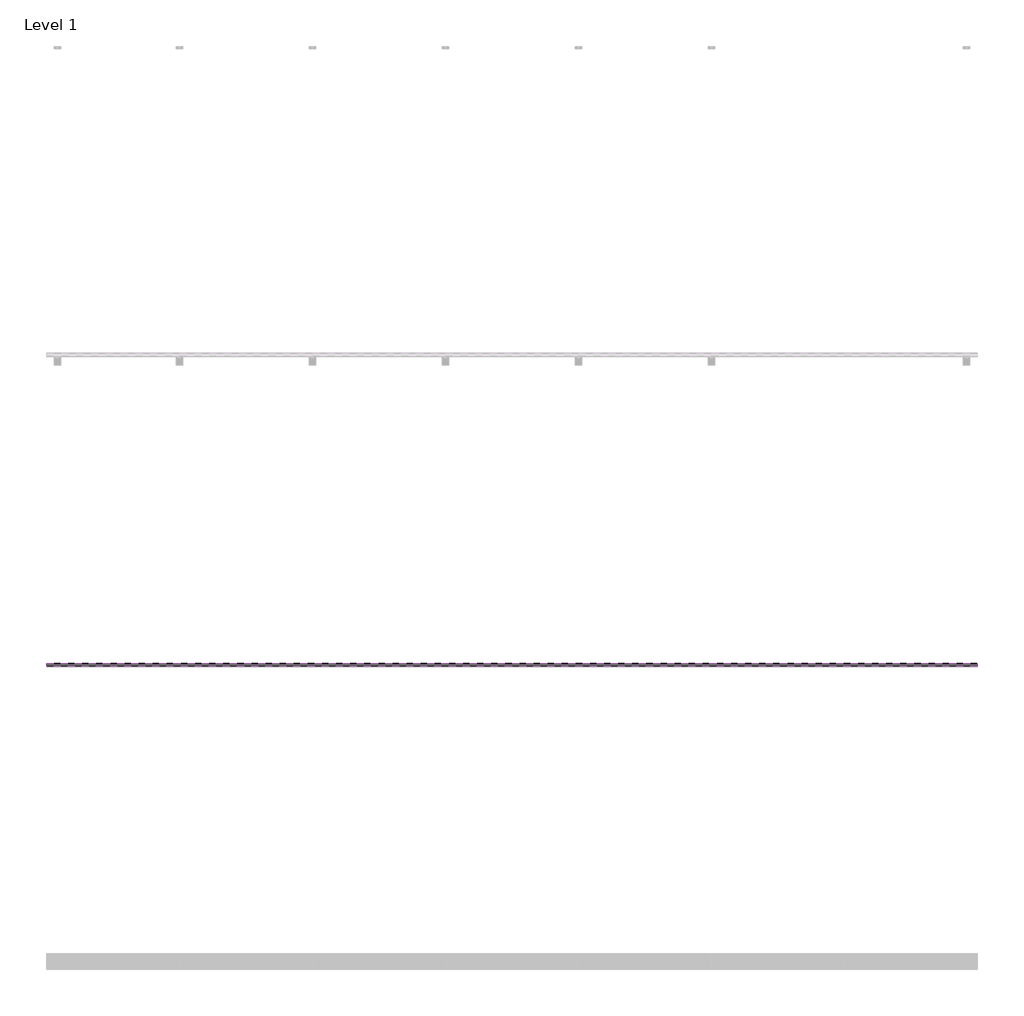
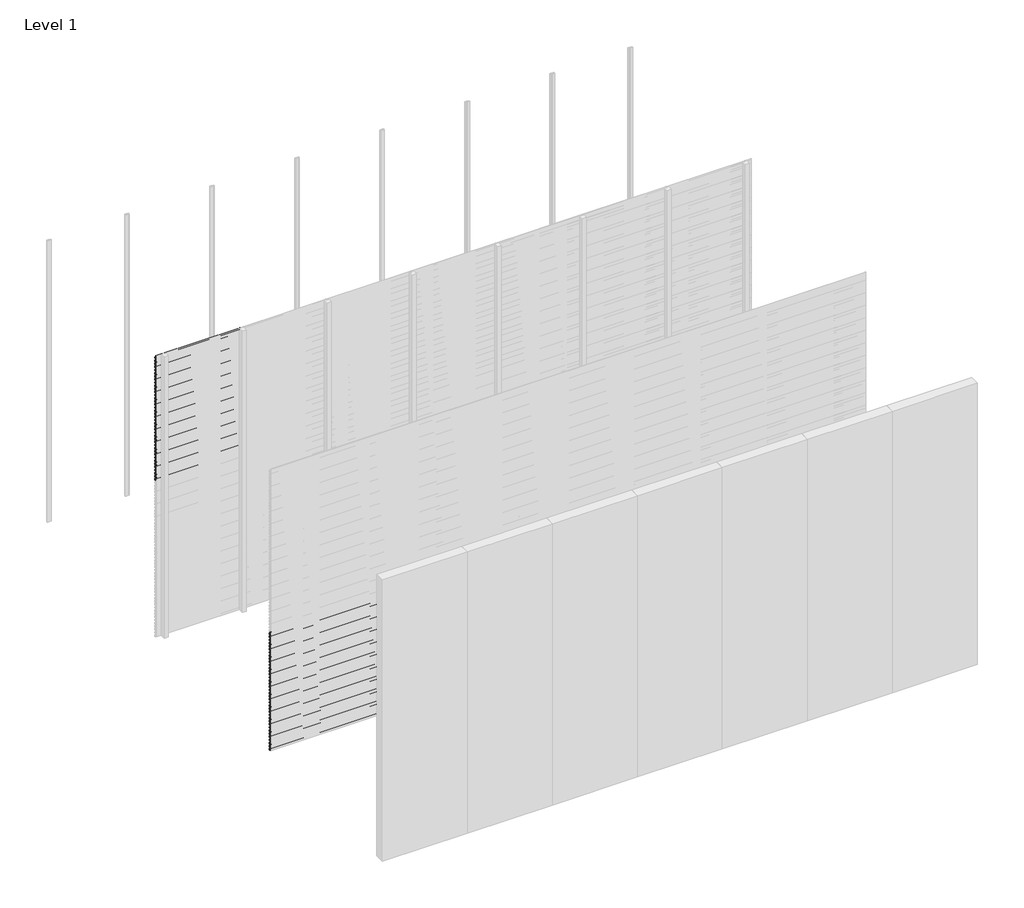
# One storey, part 42 of 96: 78 proxies.
"""IFC4 building model written with IfcOpenShell, lengths in millimetres."""

from ifc_helpers import new_model, si_unit, frame, origin, place, context, project, spatial, polyline, outline, extrude, element, save

model = new_model("IFC4")

# Units and contexts
model_context = context("Model", 3, world=origin())
ifc_project = project(units=[si_unit("LENGTHUNIT", "METRE", prefix="MILLI")], contexts=[model_context])

# Site, building, storey
site = spatial("IfcSite", under=ifc_project)
building = spatial("IfcBuilding", under=site)
storey = spatial("IfcBuildingStorey", under=building, Name="Level 1", Elevation=0.0)

# Proxies
placement = place(None, origin())
element("IfcBuildingElementProxy", 1, Name="Wall Sweeps", at=placement, inside=storey, context=model_context, shape_type="SweptSolid", body=[
    extrude(outline(polyline([(-29977.6, 2971.7655033), (-29977.6, 2957.4779188), (-29982.4114965, 2954.7), (-29982.4114965, 2955.9701706), (-29978.85, 2958.0264016), (-29978.85, 2971.0437382), (-29998.0, 2982.1000799), (-29998.0, 2997.0), (-29996.75, 2997.0), (-29996.75, 2982.8217609), (-29977.6, 2971.7655033)])), frame((0.0, 0.0, 0.0), z_axis=(1.0, 0.0, 0.0), x_axis=(0.0, 1.0, 0.0)), (0.0, 0.0, 1.0), 857.1428571),
])
element("IfcBuildingElementProxy", 2, Name="Wall Sweeps", at=placement, inside=storey, context=model_context, shape_type="SweptSolid", body=[
    extrude(outline(polyline([(-29977.6, 2938.4655033), (-29977.6, 2924.1779188), (-29982.4114965, 2921.4), (-29982.4114965, 2922.6701706), (-29978.85, 2924.7264016), (-29978.85, 2937.7437382), (-29998.0, 2948.8000799), (-29998.0, 2963.7), (-29996.75, 2963.7), (-29996.75, 2949.5217609), (-29977.6, 2938.4655033)])), frame((0.0, 0.0, 0.0), z_axis=(1.0, 0.0, 0.0), x_axis=(0.0, 1.0, 0.0)), (0.0, 0.0, 1.0), 857.1428571),
])
element("IfcBuildingElementProxy", 3, Name="Wall Sweeps", at=placement, inside=storey, context=model_context, shape_type="SweptSolid", body=[
    extrude(outline(polyline([(-29977.6, 2905.1655033), (-29977.6, 2890.8779188), (-29982.4114965, 2888.1), (-29982.4114965, 2889.3701706), (-29978.85, 2891.4264016), (-29978.85, 2904.4437382), (-29998.0, 2915.5000799), (-29998.0, 2930.4), (-29996.75, 2930.4), (-29996.75, 2916.2217609), (-29977.6, 2905.1655033)])), frame((0.0, 0.0, 0.0), z_axis=(1.0, 0.0, 0.0), x_axis=(0.0, 1.0, 0.0)), (0.0, 0.0, 1.0), 857.1428571),
])
element("IfcBuildingElementProxy", 4, Name="Wall Sweeps", at=placement, inside=storey, context=model_context, shape_type="SweptSolid", body=[
    extrude(outline(polyline([(-29977.6, 2871.8655033), (-29977.6, 2857.5779188), (-29982.4114965, 2854.8), (-29982.4114965, 2856.0701706), (-29978.85, 2858.1264016), (-29978.85, 2871.1437382), (-29998.0, 2882.2000799), (-29998.0, 2897.1), (-29996.75, 2897.1), (-29996.75, 2882.9217609), (-29977.6, 2871.8655033)])), frame((0.0, 0.0, 0.0), z_axis=(1.0, 0.0, 0.0), x_axis=(0.0, 1.0, 0.0)), (0.0, 0.0, 1.0), 857.1428571),
])
element("IfcBuildingElementProxy", 5, Name="Wall Sweeps", at=placement, inside=storey, context=model_context, shape_type="SweptSolid", body=[
    extrude(outline(polyline([(-29977.6, 2838.5655033), (-29977.6, 2824.2779188), (-29982.4114965, 2821.5), (-29982.4114965, 2822.7701706), (-29978.85, 2824.8264016), (-29978.85, 2837.8437382), (-29998.0, 2848.9000799), (-29998.0, 2863.8), (-29996.75, 2863.8), (-29996.75, 2849.6217609), (-29977.6, 2838.5655033)])), frame((0.0, 0.0, 0.0), z_axis=(1.0, 0.0, 0.0), x_axis=(0.0, 1.0, 0.0)), (0.0, 0.0, 1.0), 857.1428571),
])
element("IfcBuildingElementProxy", 6, Name="Wall Sweeps", at=placement, inside=storey, context=model_context, shape_type="SweptSolid", body=[
    extrude(outline(polyline([(-29977.6, 2805.2655033), (-29977.6, 2790.9779188), (-29982.4114965, 2788.2), (-29982.4114965, 2789.4701706), (-29978.85, 2791.5264016), (-29978.85, 2804.5437382), (-29998.0, 2815.6000799), (-29998.0, 2830.5), (-29996.75, 2830.5), (-29996.75, 2816.3217609), (-29977.6, 2805.2655033)])), frame((0.0, 0.0, 0.0), z_axis=(1.0, 0.0, 0.0), x_axis=(0.0, 1.0, 0.0)), (0.0, 0.0, 1.0), 857.1428571),
])
element("IfcBuildingElementProxy", 7, Name="Wall Sweeps", at=placement, inside=storey, context=model_context, shape_type="SweptSolid", body=[
    extrude(outline(polyline([(-29977.6, 2771.9655033), (-29977.6, 2757.6779188), (-29982.4114965, 2754.9), (-29982.4114965, 2756.1701706), (-29978.85, 2758.2264016), (-29978.85, 2771.2437382), (-29998.0, 2782.3000799), (-29998.0, 2797.2), (-29996.75, 2797.2), (-29996.75, 2783.0217609), (-29977.6, 2771.9655033)])), frame((0.0, 0.0, 0.0), z_axis=(1.0, 0.0, 0.0), x_axis=(0.0, 1.0, 0.0)), (0.0, 0.0, 1.0), 857.1428571),
])
element("IfcBuildingElementProxy", 8, Name="Wall Sweeps", at=placement, inside=storey, context=model_context, shape_type="SweptSolid", body=[
    extrude(outline(polyline([(-29977.6, 2738.6655033), (-29977.6, 2724.3779188), (-29982.4114965, 2721.6), (-29982.4114965, 2722.8701706), (-29978.85, 2724.9264016), (-29978.85, 2737.9437382), (-29998.0, 2749.0000799), (-29998.0, 2763.9), (-29996.75, 2763.9), (-29996.75, 2749.7217609), (-29977.6, 2738.6655033)])), frame((0.0, 0.0, 0.0), z_axis=(1.0, 0.0, 0.0), x_axis=(0.0, 1.0, 0.0)), (0.0, 0.0, 1.0), 857.1428571),
])
element("IfcBuildingElementProxy", 9, Name="Wall Sweeps", at=placement, inside=storey, context=model_context, shape_type="SweptSolid", body=[
    extrude(outline(polyline([(-29977.6, 2705.3655033), (-29977.6, 2691.0779188), (-29982.4114965, 2688.3), (-29982.4114965, 2689.5701706), (-29978.85, 2691.6264016), (-29978.85, 2704.6437382), (-29998.0, 2715.7000799), (-29998.0, 2730.6), (-29996.75, 2730.6), (-29996.75, 2716.4217609), (-29977.6, 2705.3655033)])), frame((0.0, 0.0, 0.0), z_axis=(1.0, 0.0, 0.0), x_axis=(0.0, 1.0, 0.0)), (0.0, 0.0, 1.0), 857.1428571),
])
element("IfcBuildingElementProxy", 10, Name="Wall Sweeps", at=placement, inside=storey, context=model_context, shape_type="SweptSolid", body=[
    extrude(outline(polyline([(-29977.6, 2672.0655033), (-29977.6, 2657.7779188), (-29982.4114965, 2655.0), (-29982.4114965, 2656.2701706), (-29978.85, 2658.3264016), (-29978.85, 2671.3437382), (-29998.0, 2682.4000799), (-29998.0, 2697.3), (-29996.75, 2697.3), (-29996.75, 2683.1217609), (-29977.6, 2672.0655033)])), frame((0.0, 0.0, 0.0), z_axis=(1.0, 0.0, 0.0), x_axis=(0.0, 1.0, 0.0)), (0.0, 0.0, 1.0), 857.1428571),
])
element("IfcBuildingElementProxy", 11, Name="Wall Sweeps", at=placement, inside=storey, context=model_context, shape_type="SweptSolid", body=[
    extrude(outline(polyline([(-29977.6, 2638.7655033), (-29977.6, 2624.4779188), (-29982.4114965, 2621.7), (-29982.4114965, 2622.9701706), (-29978.85, 2625.0264016), (-29978.85, 2638.0437382), (-29998.0, 2649.1000799), (-29998.0, 2664.0), (-29996.75, 2664.0), (-29996.75, 2649.8217609), (-29977.6, 2638.7655033)])), frame((0.0, 0.0, 0.0), z_axis=(1.0, 0.0, 0.0), x_axis=(0.0, 1.0, 0.0)), (0.0, 0.0, 1.0), 857.1428571),
])
element("IfcBuildingElementProxy", 12, Name="Wall Sweeps", at=placement, inside=storey, context=model_context, shape_type="SweptSolid", body=[
    extrude(outline(polyline([(-29977.6, 2605.4655033), (-29977.6, 2591.1779188), (-29982.4114965, 2588.4), (-29982.4114965, 2589.6701706), (-29978.85, 2591.7264016), (-29978.85, 2604.7437382), (-29998.0, 2615.8000799), (-29998.0, 2630.7), (-29996.75, 2630.7), (-29996.75, 2616.5217609), (-29977.6, 2605.4655033)])), frame((0.0, 0.0, 0.0), z_axis=(1.0, 0.0, 0.0), x_axis=(0.0, 1.0, 0.0)), (0.0, 0.0, 1.0), 857.1428571),
])
element("IfcBuildingElementProxy", 13, Name="Wall Sweeps", at=placement, inside=storey, context=model_context, shape_type="SweptSolid", body=[
    extrude(outline(polyline([(-29977.6, 2572.1655033), (-29977.6, 2557.8779188), (-29982.4114965, 2555.1), (-29982.4114965, 2556.3701706), (-29978.85, 2558.4264016), (-29978.85, 2571.4437382), (-29998.0, 2582.5000799), (-29998.0, 2597.4), (-29996.75, 2597.4), (-29996.75, 2583.2217609), (-29977.6, 2572.1655033)])), frame((0.0, 0.0, 0.0), z_axis=(1.0, 0.0, 0.0), x_axis=(0.0, 1.0, 0.0)), (0.0, 0.0, 1.0), 857.1428571),
])
element("IfcBuildingElementProxy", 14, Name="Wall Sweeps", at=placement, inside=storey, context=model_context, shape_type="SweptSolid", body=[
    extrude(outline(polyline([(-29977.6, 2538.8655033), (-29977.6, 2524.5779188), (-29982.4114965, 2521.8), (-29982.4114965, 2523.0701706), (-29978.85, 2525.1264016), (-29978.85, 2538.1437382), (-29998.0, 2549.2000799), (-29998.0, 2564.1), (-29996.75, 2564.1), (-29996.75, 2549.9217609), (-29977.6, 2538.8655033)])), frame((0.0, 0.0, 0.0), z_axis=(1.0, 0.0, 0.0), x_axis=(0.0, 1.0, 0.0)), (0.0, 0.0, 1.0), 857.1428571),
])
element("IfcBuildingElementProxy", 15, Name="Wall Sweeps", at=placement, inside=storey, context=model_context, shape_type="SweptSolid", body=[
    extrude(outline(polyline([(-29977.6, 2505.5655033), (-29977.6, 2491.2779188), (-29982.4114965, 2488.5), (-29982.4114965, 2489.7701706), (-29978.85, 2491.8264016), (-29978.85, 2504.8437382), (-29998.0, 2515.9000799), (-29998.0, 2530.8), (-29996.75, 2530.8), (-29996.75, 2516.6217609), (-29977.6, 2505.5655033)])), frame((0.0, 0.0, 0.0), z_axis=(1.0, 0.0, 0.0), x_axis=(0.0, 1.0, 0.0)), (0.0, 0.0, 1.0), 857.1428571),
])
element("IfcBuildingElementProxy", 16, Name="Wall Sweeps", at=placement, inside=storey, context=model_context, shape_type="SweptSolid", body=[
    extrude(outline(polyline([(-29977.6, 2472.2655033), (-29977.6, 2457.9779188), (-29982.4114965, 2455.2), (-29982.4114965, 2456.4701706), (-29978.85, 2458.5264016), (-29978.85, 2471.5437382), (-29998.0, 2482.6000799), (-29998.0, 2497.5), (-29996.75, 2497.5), (-29996.75, 2483.3217609), (-29977.6, 2472.2655033)])), frame((0.0, 0.0, 0.0), z_axis=(1.0, 0.0, 0.0), x_axis=(0.0, 1.0, 0.0)), (0.0, 0.0, 1.0), 857.1428571),
])
element("IfcBuildingElementProxy", 17, Name="Wall Sweeps", at=placement, inside=storey, context=model_context, shape_type="SweptSolid", body=[
    extrude(outline(polyline([(-29977.6, 2438.9655033), (-29977.6, 2424.6779188), (-29982.4114965, 2421.9), (-29982.4114965, 2423.1701706), (-29978.85, 2425.2264016), (-29978.85, 2438.2437382), (-29998.0, 2449.3000799), (-29998.0, 2464.2), (-29996.75, 2464.2), (-29996.75, 2450.0217609), (-29977.6, 2438.9655033)])), frame((0.0, 0.0, 0.0), z_axis=(1.0, 0.0, 0.0), x_axis=(0.0, 1.0, 0.0)), (0.0, 0.0, 1.0), 857.1428571),
])
element("IfcBuildingElementProxy", 18, Name="Wall Sweeps", at=placement, inside=storey, context=model_context, shape_type="SweptSolid", body=[
    extrude(outline(polyline([(-29977.6, 2405.6655033), (-29977.6, 2391.3779188), (-29982.4114965, 2388.6), (-29982.4114965, 2389.8701706), (-29978.85, 2391.9264016), (-29978.85, 2404.9437382), (-29998.0, 2416.0000799), (-29998.0, 2430.9), (-29996.75, 2430.9), (-29996.75, 2416.7217609), (-29977.6, 2405.6655033)])), frame((0.0, 0.0, 0.0), z_axis=(1.0, 0.0, 0.0), x_axis=(0.0, 1.0, 0.0)), (0.0, 0.0, 1.0), 857.1428571),
])
element("IfcBuildingElementProxy", 19, Name="Wall Sweeps", at=placement, inside=storey, context=model_context, shape_type="SweptSolid", body=[
    extrude(outline(polyline([(-29977.6, 2372.3655033), (-29977.6, 2358.0779188), (-29982.4114965, 2355.3), (-29982.4114965, 2356.5701706), (-29978.85, 2358.6264016), (-29978.85, 2371.6437382), (-29998.0, 2382.7000799), (-29998.0, 2397.6), (-29996.75, 2397.6), (-29996.75, 2383.4217609), (-29977.6, 2372.3655033)])), frame((0.0, 0.0, 0.0), z_axis=(1.0, 0.0, 0.0), x_axis=(0.0, 1.0, 0.0)), (0.0, 0.0, 1.0), 857.1428571),
])
element("IfcBuildingElementProxy", 20, Name="Wall Sweeps", at=placement, inside=storey, context=model_context, shape_type="SweptSolid", body=[
    extrude(outline(polyline([(-29977.6, 2339.0655033), (-29977.6, 2324.7779188), (-29982.4114965, 2322.0), (-29982.4114965, 2323.2701706), (-29978.85, 2325.3264016), (-29978.85, 2338.3437382), (-29998.0, 2349.4000799), (-29998.0, 2364.3), (-29996.75, 2364.3), (-29996.75, 2350.1217609), (-29977.6, 2339.0655033)])), frame((0.0, 0.0, 0.0), z_axis=(1.0, 0.0, 0.0), x_axis=(0.0, 1.0, 0.0)), (0.0, 0.0, 1.0), 857.1428571),
])
element("IfcBuildingElementProxy", 21, Name="Wall Sweeps", at=placement, inside=storey, context=model_context, shape_type="SweptSolid", body=[
    extrude(outline(polyline([(-29977.6, 2305.7655033), (-29977.6, 2291.4779188), (-29982.4114965, 2288.7), (-29982.4114965, 2289.9701706), (-29978.85, 2292.0264016), (-29978.85, 2305.0437382), (-29998.0, 2316.1000799), (-29998.0, 2331.0), (-29996.75, 2331.0), (-29996.75, 2316.8217609), (-29977.6, 2305.7655033)])), frame((0.0, 0.0, 0.0), z_axis=(1.0, 0.0, 0.0), x_axis=(0.0, 1.0, 0.0)), (0.0, 0.0, 1.0), 857.1428571),
])
element("IfcBuildingElementProxy", 22, Name="Wall Sweeps", at=placement, inside=storey, context=model_context, shape_type="SweptSolid", body=[
    extrude(outline(polyline([(-29977.6, 2272.4655033), (-29977.6, 2258.1779188), (-29982.4114965, 2255.4), (-29982.4114965, 2256.6701706), (-29978.85, 2258.7264016), (-29978.85, 2271.7437382), (-29998.0, 2282.8000799), (-29998.0, 2297.7), (-29996.75, 2297.7), (-29996.75, 2283.5217609), (-29977.6, 2272.4655033)])), frame((0.0, 0.0, 0.0), z_axis=(1.0, 0.0, 0.0), x_axis=(0.0, 1.0, 0.0)), (0.0, 0.0, 1.0), 857.1428571),
])
element("IfcBuildingElementProxy", 23, Name="Wall Sweeps", at=placement, inside=storey, context=model_context, shape_type="SweptSolid", body=[
    extrude(outline(polyline([(-29977.6, 2239.1655033), (-29977.6, 2224.8779188), (-29982.4114965, 2222.1), (-29982.4114965, 2223.3701706), (-29978.85, 2225.4264016), (-29978.85, 2238.4437382), (-29998.0, 2249.5000799), (-29998.0, 2264.4), (-29996.75, 2264.4), (-29996.75, 2250.2217609), (-29977.6, 2239.1655033)])), frame((0.0, 0.0, 0.0), z_axis=(1.0, 0.0, 0.0), x_axis=(0.0, 1.0, 0.0)), (0.0, 0.0, 1.0), 857.1428571),
])
element("IfcBuildingElementProxy", 24, Name="Wall Sweeps", at=placement, inside=storey, context=model_context, shape_type="SweptSolid", body=[
    extrude(outline(polyline([(-29977.6, 2205.8655033), (-29977.6, 2191.5779188), (-29982.4114965, 2188.8), (-29982.4114965, 2190.0701706), (-29978.85, 2192.1264016), (-29978.85, 2205.1437382), (-29998.0, 2216.2000799), (-29998.0, 2231.1), (-29996.75, 2231.1), (-29996.75, 2216.9217609), (-29977.6, 2205.8655033)])), frame((0.0, 0.0, 0.0), z_axis=(1.0, 0.0, 0.0), x_axis=(0.0, 1.0, 0.0)), (0.0, 0.0, 1.0), 857.1428571),
])
element("IfcBuildingElementProxy", 25, Name="Wall Sweeps", at=placement, inside=storey, context=model_context, shape_type="SweptSolid", body=[
    extrude(outline(polyline([(-29977.6, 2172.5655033), (-29977.6, 2158.2779188), (-29982.4114965, 2155.5), (-29982.4114965, 2156.7701706), (-29978.85, 2158.8264016), (-29978.85, 2171.8437382), (-29998.0, 2182.9000799), (-29998.0, 2197.8), (-29996.75, 2197.8), (-29996.75, 2183.6217609), (-29977.6, 2172.5655033)])), frame((0.0, 0.0, 0.0), z_axis=(1.0, 0.0, 0.0), x_axis=(0.0, 1.0, 0.0)), (0.0, 0.0, 1.0), 857.1428571),
])
element("IfcBuildingElementProxy", 26, Name="Wall Sweeps", at=placement, inside=storey, context=model_context, shape_type="SweptSolid", body=[
    extrude(outline(polyline([(-29977.6, 2139.2655033), (-29977.6, 2124.9779188), (-29982.4114965, 2122.2), (-29982.4114965, 2123.4701706), (-29978.85, 2125.5264016), (-29978.85, 2138.5437382), (-29998.0, 2149.6000799), (-29998.0, 2164.5), (-29996.75, 2164.5), (-29996.75, 2150.3217609), (-29977.6, 2139.2655033)])), frame((0.0, 0.0, 0.0), z_axis=(1.0, 0.0, 0.0), x_axis=(0.0, 1.0, 0.0)), (0.0, 0.0, 1.0), 857.1428571),
])
element("IfcBuildingElementProxy", 27, Name="Wall Sweeps", at=placement, inside=storey, context=model_context, shape_type="SweptSolid", body=[
    extrude(outline(polyline([(-29977.6, 2105.9655033), (-29977.6, 2091.6779188), (-29982.4114965, 2088.9), (-29982.4114965, 2090.1701706), (-29978.85, 2092.2264016), (-29978.85, 2105.2437382), (-29998.0, 2116.3000799), (-29998.0, 2131.2), (-29996.75, 2131.2), (-29996.75, 2117.0217609), (-29977.6, 2105.9655033)])), frame((0.0, 0.0, 0.0), z_axis=(1.0, 0.0, 0.0), x_axis=(0.0, 1.0, 0.0)), (0.0, 0.0, 1.0), 857.1428571),
])
element("IfcBuildingElementProxy", 28, Name="Wall Sweeps", at=placement, inside=storey, context=model_context, shape_type="SweptSolid", body=[
    extrude(outline(polyline([(-29977.6, 2072.6655033), (-29977.6, 2058.3779188), (-29982.4114965, 2055.6), (-29982.4114965, 2056.8701706), (-29978.85, 2058.9264016), (-29978.85, 2071.9437382), (-29998.0, 2083.0000799), (-29998.0, 2097.9), (-29996.75, 2097.9), (-29996.75, 2083.7217609), (-29977.6, 2072.6655033)])), frame((0.0, 0.0, 0.0), z_axis=(1.0, 0.0, 0.0), x_axis=(0.0, 1.0, 0.0)), (0.0, 0.0, 1.0), 857.1428571),
])
element("IfcBuildingElementProxy", 29, Name="Wall Sweeps", at=placement, inside=storey, context=model_context, shape_type="SweptSolid", body=[
    extrude(outline(polyline([(-29977.6, 2039.3655033), (-29977.6, 2025.0779188), (-29982.4114965, 2022.3), (-29982.4114965, 2023.5701706), (-29978.85, 2025.6264016), (-29978.85, 2038.6437382), (-29998.0, 2049.7000799), (-29998.0, 2064.6), (-29996.75, 2064.6), (-29996.75, 2050.4217609), (-29977.6, 2039.3655033)])), frame((0.0, 0.0, 0.0), z_axis=(1.0, 0.0, 0.0), x_axis=(0.0, 1.0, 0.0)), (0.0, 0.0, 1.0), 857.1428571),
])
element("IfcBuildingElementProxy", 30, Name="Wall Sweeps", at=placement, inside=storey, context=model_context, shape_type="SweptSolid", body=[
    extrude(outline(polyline([(-29977.6, 2006.0655033), (-29977.6, 1991.7779188), (-29982.4114965, 1989.0), (-29982.4114965, 1990.2701706), (-29978.85, 1992.3264016), (-29978.85, 2005.3437382), (-29998.0, 2016.4000799), (-29998.0, 2031.3), (-29996.75, 2031.3), (-29996.75, 2017.1217609), (-29977.6, 2006.0655033)])), frame((0.0, 0.0, 0.0), z_axis=(1.0, 0.0, 0.0), x_axis=(0.0, 1.0, 0.0)), (0.0, 0.0, 1.0), 857.1428571),
])
element("IfcBuildingElementProxy", 31, Name="Wall Sweeps", at=placement, inside=storey, context=model_context, shape_type="SweptSolid", body=[
    extrude(outline(polyline([(-29977.6, 1972.7655033), (-29977.6, 1958.4779188), (-29982.4114965, 1955.7), (-29982.4114965, 1956.9701706), (-29978.85, 1959.0264016), (-29978.85, 1972.0437382), (-29998.0, 1983.1000799), (-29998.0, 1998.0), (-29996.75, 1998.0), (-29996.75, 1983.8217609), (-29977.6, 1972.7655033)])), frame((0.0, 0.0, 0.0), z_axis=(1.0, 0.0, 0.0), x_axis=(0.0, 1.0, 0.0)), (0.0, 0.0, 1.0), 857.1428571),
])
element("IfcBuildingElementProxy", 32, Name="Wall Sweeps", at=placement, inside=storey, context=model_context, shape_type="SweptSolid", body=[
    extrude(outline(polyline([(-29977.6, 1939.4655033), (-29977.6, 1925.1779188), (-29982.4114965, 1922.4), (-29982.4114965, 1923.6701706), (-29978.85, 1925.7264016), (-29978.85, 1938.7437382), (-29998.0, 1949.8000799), (-29998.0, 1964.7), (-29996.75, 1964.7), (-29996.75, 1950.5217609), (-29977.6, 1939.4655033)])), frame((0.0, 0.0, 0.0), z_axis=(1.0, 0.0, 0.0), x_axis=(0.0, 1.0, 0.0)), (0.0, 0.0, 1.0), 857.1428571),
])
element("IfcBuildingElementProxy", 33, Name="Wall Sweeps", at=placement, inside=storey, context=model_context, shape_type="SweptSolid", body=[
    extrude(outline(polyline([(-29977.6, 1906.1655033), (-29977.6, 1891.8779188), (-29982.4114965, 1889.1), (-29982.4114965, 1890.3701706), (-29978.85, 1892.4264016), (-29978.85, 1905.4437382), (-29998.0, 1916.5000799), (-29998.0, 1931.4), (-29996.75, 1931.4), (-29996.75, 1917.2217609), (-29977.6, 1906.1655033)])), frame((0.0, 0.0, 0.0), z_axis=(1.0, 0.0, 0.0), x_axis=(0.0, 1.0, 0.0)), (0.0, 0.0, 1.0), 857.1428571),
])
element("IfcBuildingElementProxy", 34, Name="Wall Sweeps", at=placement, inside=storey, context=model_context, shape_type="SweptSolid", body=[
    extrude(outline(polyline([(-29977.6, 1872.8655033), (-29977.6, 1858.5779188), (-29982.4114965, 1855.8), (-29982.4114965, 1857.0701706), (-29978.85, 1859.1264016), (-29978.85, 1872.1437382), (-29998.0, 1883.2000799), (-29998.0, 1898.1), (-29996.75, 1898.1), (-29996.75, 1883.9217609), (-29977.6, 1872.8655033)])), frame((0.0, 0.0, 0.0), z_axis=(1.0, 0.0, 0.0), x_axis=(0.0, 1.0, 0.0)), (0.0, 0.0, 1.0), 857.1428571),
])
element("IfcBuildingElementProxy", 35, Name="Wall Sweeps", at=placement, inside=storey, context=model_context, shape_type="SweptSolid", body=[
    extrude(outline(polyline([(-29977.6, 1839.5655033), (-29977.6, 1825.2779188), (-29982.4114965, 1822.5), (-29982.4114965, 1823.7701706), (-29978.85, 1825.8264016), (-29978.85, 1838.8437382), (-29998.0, 1849.9000799), (-29998.0, 1864.8), (-29996.75, 1864.8), (-29996.75, 1850.6217609), (-29977.6, 1839.5655033)])), frame((0.0, 0.0, 0.0), z_axis=(1.0, 0.0, 0.0), x_axis=(0.0, 1.0, 0.0)), (0.0, 0.0, 1.0), 857.1428571),
])
element("IfcBuildingElementProxy", 36, Name="Wall Sweeps", at=placement, inside=storey, context=model_context, shape_type="SweptSolid", body=[
    extrude(outline(polyline([(-29977.6, 1806.2655033), (-29977.6, 1791.9779188), (-29982.4114965, 1789.2), (-29982.4114965, 1790.4701706), (-29978.85, 1792.5264016), (-29978.85, 1805.5437382), (-29998.0, 1816.6000799), (-29998.0, 1831.5), (-29996.75, 1831.5), (-29996.75, 1817.3217609), (-29977.6, 1806.2655033)])), frame((0.0, 0.0, 0.0), z_axis=(1.0, 0.0, 0.0), x_axis=(0.0, 1.0, 0.0)), (0.0, 0.0, 1.0), 857.1428571),
])
element("IfcBuildingElementProxy", 37, Name="Wall Sweeps", at=placement, inside=storey, context=model_context, shape_type="SweptSolid", body=[
    extrude(outline(polyline([(-29977.6, 1772.9655033), (-29977.6, 1758.6779188), (-29982.4114965, 1755.9), (-29982.4114965, 1757.1701706), (-29978.85, 1759.2264016), (-29978.85, 1772.2437382), (-29998.0, 1783.3000799), (-29998.0, 1798.2), (-29996.75, 1798.2), (-29996.75, 1784.0217609), (-29977.6, 1772.9655033)])), frame((0.0, 0.0, 0.0), z_axis=(1.0, 0.0, 0.0), x_axis=(0.0, 1.0, 0.0)), (0.0, 0.0, 1.0), 857.1428571),
])
element("IfcBuildingElementProxy", 38, Name="Wall Sweeps", at=placement, inside=storey, context=model_context, shape_type="SweptSolid", body=[
    extrude(outline(polyline([(-29977.6, 1739.6655033), (-29977.6, 1725.3779188), (-29982.4114965, 1722.6), (-29982.4114965, 1723.8701706), (-29978.85, 1725.9264016), (-29978.85, 1738.9437382), (-29998.0, 1750.0000799), (-29998.0, 1764.9), (-29996.75, 1764.9), (-29996.75, 1750.7217609), (-29977.6, 1739.6655033)])), frame((0.0, 0.0, 0.0), z_axis=(1.0, 0.0, 0.0), x_axis=(0.0, 1.0, 0.0)), (0.0, 0.0, 1.0), 857.1428571),
])
element("IfcBuildingElementProxy", 39, Name="Wall Sweeps", at=placement, inside=storey, context=model_context, shape_type="SweptSolid", body=[
    extrude(outline(polyline([(-29977.6, 1706.3655033), (-29977.6, 1692.0779188), (-29982.4114965, 1689.3), (-29982.4114965, 1690.5701706), (-29978.85, 1692.6264016), (-29978.85, 1705.6437382), (-29998.0, 1716.7000799), (-29998.0, 1731.6), (-29996.75, 1731.6), (-29996.75, 1717.4217609), (-29977.6, 1706.3655033)])), frame((0.0, 0.0, 0.0), z_axis=(1.0, 0.0, 0.0), x_axis=(0.0, 1.0, 0.0)), (0.0, 0.0, 1.0), 857.1428571),
])
element("IfcBuildingElementProxy", 40, Name="Wall Sweeps", at=placement, inside=storey, context=model_context, shape_type="SweptSolid", body=[
    extrude(outline(polyline([(-29977.6, 1673.0655033), (-29977.6, 1658.7779188), (-29982.4114965, 1656.0), (-29982.4114965, 1657.2701706), (-29978.85, 1659.3264016), (-29978.85, 1672.3437382), (-29998.0, 1683.4000799), (-29998.0, 1698.3), (-29996.75, 1698.3), (-29996.75, 1684.1217609), (-29977.6, 1673.0655033)])), frame((0.0, 0.0, 0.0), z_axis=(1.0, 0.0, 0.0), x_axis=(0.0, 1.0, 0.0)), (0.0, 0.0, 1.0), 857.1428571),
])
element("IfcBuildingElementProxy", 41, Name="Wall Sweeps", at=placement, inside=storey, context=model_context, shape_type="SweptSolid", body=[
    extrude(outline(polyline([(-31977.6, 1240.1655033), (-31977.6, 1225.8779188), (-31982.4114965, 1223.1), (-31982.4114965, 1224.3701706), (-31978.85, 1226.4264016), (-31978.85, 1239.4437382), (-31998.0, 1250.5000799), (-31998.0, 1265.4), (-31996.75, 1265.4), (-31996.75, 1251.2217609), (-31977.6, 1240.1655033)])), frame((0.0, 0.0, 0.0), z_axis=(1.0, 0.0, 0.0), x_axis=(0.0, 1.0, 0.0)), (0.0, 0.0, 1.0), 6000.0),
])
element("IfcBuildingElementProxy", 42, Name="Wall Sweeps", at=placement, inside=storey, context=model_context, shape_type="SweptSolid", body=[
    extrude(outline(polyline([(-31977.6, 1206.8655033), (-31977.6, 1192.5779188), (-31982.4114965, 1189.8), (-31982.4114965, 1191.0701706), (-31978.85, 1193.1264016), (-31978.85, 1206.1437382), (-31998.0, 1217.2000799), (-31998.0, 1232.1), (-31996.75, 1232.1), (-31996.75, 1217.9217609), (-31977.6, 1206.8655033)])), frame((0.0, 0.0, 0.0), z_axis=(1.0, 0.0, 0.0), x_axis=(0.0, 1.0, 0.0)), (0.0, 0.0, 1.0), 6000.0),
])
element("IfcBuildingElementProxy", 43, Name="Wall Sweeps", at=placement, inside=storey, context=model_context, shape_type="SweptSolid", body=[
    extrude(outline(polyline([(-31977.6, 1173.5655033), (-31977.6, 1159.2779188), (-31982.4114965, 1156.5), (-31982.4114965, 1157.7701706), (-31978.85, 1159.8264016), (-31978.85, 1172.8437382), (-31998.0, 1183.9000799), (-31998.0, 1198.8), (-31996.75, 1198.8), (-31996.75, 1184.6217609), (-31977.6, 1173.5655033)])), frame((0.0, 0.0, 0.0), z_axis=(1.0, 0.0, 0.0), x_axis=(0.0, 1.0, 0.0)), (0.0, 0.0, 1.0), 6000.0),
])
element("IfcBuildingElementProxy", 44, Name="Wall Sweeps", at=placement, inside=storey, context=model_context, shape_type="SweptSolid", body=[
    extrude(outline(polyline([(-31977.6, 1140.2655033), (-31977.6, 1125.9779188), (-31982.4114965, 1123.2), (-31982.4114965, 1124.4701706), (-31978.85, 1126.5264016), (-31978.85, 1139.5437382), (-31998.0, 1150.6000799), (-31998.0, 1165.5), (-31996.75, 1165.5), (-31996.75, 1151.3217609), (-31977.6, 1140.2655033)])), frame((0.0, 0.0, 0.0), z_axis=(1.0, 0.0, 0.0), x_axis=(0.0, 1.0, 0.0)), (0.0, 0.0, 1.0), 6000.0),
])
element("IfcBuildingElementProxy", 45, Name="Wall Sweeps", at=placement, inside=storey, context=model_context, shape_type="SweptSolid", body=[
    extrude(outline(polyline([(-31977.6, 1106.9655033), (-31977.6, 1092.6779188), (-31982.4114965, 1089.9), (-31982.4114965, 1091.1701706), (-31978.85, 1093.2264016), (-31978.85, 1106.2437382), (-31998.0, 1117.3000799), (-31998.0, 1132.2), (-31996.75, 1132.2), (-31996.75, 1118.0217609), (-31977.6, 1106.9655033)])), frame((0.0, 0.0, 0.0), z_axis=(1.0, 0.0, 0.0), x_axis=(0.0, 1.0, 0.0)), (0.0, 0.0, 1.0), 6000.0),
])
element("IfcBuildingElementProxy", 46, Name="Wall Sweeps", at=placement, inside=storey, context=model_context, shape_type="SweptSolid", body=[
    extrude(outline(polyline([(-31977.6, 1073.6655033), (-31977.6, 1059.3779188), (-31982.4114965, 1056.6), (-31982.4114965, 1057.8701706), (-31978.85, 1059.9264016), (-31978.85, 1072.9437382), (-31998.0, 1084.0000799), (-31998.0, 1098.9), (-31996.75, 1098.9), (-31996.75, 1084.7217609), (-31977.6, 1073.6655033)])), frame((0.0, 0.0, 0.0), z_axis=(1.0, 0.0, 0.0), x_axis=(0.0, 1.0, 0.0)), (0.0, 0.0, 1.0), 6000.0),
])
element("IfcBuildingElementProxy", 47, Name="Wall Sweeps", at=placement, inside=storey, context=model_context, shape_type="SweptSolid", body=[
    extrude(outline(polyline([(-31977.6, 1040.3655033), (-31977.6, 1026.0779188), (-31982.4114965, 1023.3), (-31982.4114965, 1024.5701706), (-31978.85, 1026.6264016), (-31978.85, 1039.6437382), (-31998.0, 1050.7000799), (-31998.0, 1065.6), (-31996.75, 1065.6), (-31996.75, 1051.4217609), (-31977.6, 1040.3655033)])), frame((0.0, 0.0, 0.0), z_axis=(1.0, 0.0, 0.0), x_axis=(0.0, 1.0, 0.0)), (0.0, 0.0, 1.0), 6000.0),
])
element("IfcBuildingElementProxy", 48, Name="Wall Sweeps", at=placement, inside=storey, context=model_context, shape_type="SweptSolid", body=[
    extrude(outline(polyline([(-31977.6, 1007.0655033), (-31977.6, 992.7779188), (-31982.4114965, 990.0), (-31982.4114965, 991.2701706), (-31978.85, 993.3264016), (-31978.85, 1006.3437382), (-31998.0, 1017.4000799), (-31998.0, 1032.3), (-31996.75, 1032.3), (-31996.75, 1018.1217609), (-31977.6, 1007.0655033)])), frame((0.0, 0.0, 0.0), z_axis=(1.0, 0.0, 0.0), x_axis=(0.0, 1.0, 0.0)), (0.0, 0.0, 1.0), 6000.0),
])
element("IfcBuildingElementProxy", 49, Name="Wall Sweeps", at=placement, inside=storey, context=model_context, shape_type="SweptSolid", body=[
    extrude(outline(polyline([(-31977.6, 973.7655033), (-31977.6, 959.4779188), (-31982.4114965, 956.7), (-31982.4114965, 957.9701706), (-31978.85, 960.0264016), (-31978.85, 973.0437382), (-31998.0, 984.1000799), (-31998.0, 999.0), (-31996.75, 999.0), (-31996.75, 984.8217609), (-31977.6, 973.7655033)])), frame((0.0, 0.0, 0.0), z_axis=(1.0, 0.0, 0.0), x_axis=(0.0, 1.0, 0.0)), (0.0, 0.0, 1.0), 6000.0),
])
element("IfcBuildingElementProxy", 50, Name="Wall Sweeps", at=placement, inside=storey, context=model_context, shape_type="SweptSolid", body=[
    extrude(outline(polyline([(-31977.6, 940.4655033), (-31977.6, 926.1779188), (-31982.4114965, 923.4), (-31982.4114965, 924.6701706), (-31978.85, 926.7264016), (-31978.85, 939.7437382), (-31998.0, 950.8000799), (-31998.0, 965.7), (-31996.75, 965.7), (-31996.75, 951.5217609), (-31977.6, 940.4655033)])), frame((0.0, 0.0, 0.0), z_axis=(1.0, 0.0, 0.0), x_axis=(0.0, 1.0, 0.0)), (0.0, 0.0, 1.0), 6000.0),
])
element("IfcBuildingElementProxy", 51, Name="Wall Sweeps", at=placement, inside=storey, context=model_context, shape_type="SweptSolid", body=[
    extrude(outline(polyline([(-31977.6, 907.1655033), (-31977.6, 892.8779188), (-31982.4114965, 890.1), (-31982.4114965, 891.3701706), (-31978.85, 893.4264016), (-31978.85, 906.4437382), (-31998.0, 917.5000799), (-31998.0, 932.4), (-31996.75, 932.4), (-31996.75, 918.2217609), (-31977.6, 907.1655033)])), frame((0.0, 0.0, 0.0), z_axis=(1.0, 0.0, 0.0), x_axis=(0.0, 1.0, 0.0)), (0.0, 0.0, 1.0), 6000.0),
])
element("IfcBuildingElementProxy", 52, Name="Wall Sweeps", at=placement, inside=storey, context=model_context, shape_type="SweptSolid", body=[
    extrude(outline(polyline([(-31977.6, 873.8655033), (-31977.6, 859.5779188), (-31982.4114965, 856.8), (-31982.4114965, 858.0701706), (-31978.85, 860.1264016), (-31978.85, 873.1437382), (-31998.0, 884.2000799), (-31998.0, 899.1), (-31996.75, 899.1), (-31996.75, 884.9217609), (-31977.6, 873.8655033)])), frame((0.0, 0.0, 0.0), z_axis=(1.0, 0.0, 0.0), x_axis=(0.0, 1.0, 0.0)), (0.0, 0.0, 1.0), 6000.0),
])
element("IfcBuildingElementProxy", 53, Name="Wall Sweeps", at=placement, inside=storey, context=model_context, shape_type="SweptSolid", body=[
    extrude(outline(polyline([(-31977.6, 840.5655033), (-31977.6, 826.2779188), (-31982.4114965, 823.5), (-31982.4114965, 824.7701706), (-31978.85, 826.8264016), (-31978.85, 839.8437382), (-31998.0, 850.9000799), (-31998.0, 865.8), (-31996.75, 865.8), (-31996.75, 851.6217609), (-31977.6, 840.5655033)])), frame((0.0, 0.0, 0.0), z_axis=(1.0, 0.0, 0.0), x_axis=(0.0, 1.0, 0.0)), (0.0, 0.0, 1.0), 6000.0),
])
element("IfcBuildingElementProxy", 54, Name="Wall Sweeps", at=placement, inside=storey, context=model_context, shape_type="SweptSolid", body=[
    extrude(outline(polyline([(-31977.6, 807.2655033), (-31977.6, 792.9779188), (-31982.4114965, 790.2), (-31982.4114965, 791.4701706), (-31978.85, 793.5264016), (-31978.85, 806.5437382), (-31998.0, 817.6000799), (-31998.0, 832.5), (-31996.75, 832.5), (-31996.75, 818.3217609), (-31977.6, 807.2655033)])), frame((0.0, 0.0, 0.0), z_axis=(1.0, 0.0, 0.0), x_axis=(0.0, 1.0, 0.0)), (0.0, 0.0, 1.0), 6000.0),
])
element("IfcBuildingElementProxy", 55, Name="Wall Sweeps", at=placement, inside=storey, context=model_context, shape_type="SweptSolid", body=[
    extrude(outline(polyline([(-31977.6, 773.9655033), (-31977.6, 759.6779188), (-31982.4114965, 756.9), (-31982.4114965, 758.1701706), (-31978.85, 760.2264016), (-31978.85, 773.2437382), (-31998.0, 784.3000799), (-31998.0, 799.2), (-31996.75, 799.2), (-31996.75, 785.0217609), (-31977.6, 773.9655033)])), frame((0.0, 0.0, 0.0), z_axis=(1.0, 0.0, 0.0), x_axis=(0.0, 1.0, 0.0)), (0.0, 0.0, 1.0), 6000.0),
])
element("IfcBuildingElementProxy", 56, Name="Wall Sweeps", at=placement, inside=storey, context=model_context, shape_type="SweptSolid", body=[
    extrude(outline(polyline([(-31977.6, 740.6655033), (-31977.6, 726.3779188), (-31982.4114965, 723.6), (-31982.4114965, 724.8701706), (-31978.85, 726.9264016), (-31978.85, 739.9437382), (-31998.0, 751.0000799), (-31998.0, 765.9), (-31996.75, 765.9), (-31996.75, 751.7217609), (-31977.6, 740.6655033)])), frame((0.0, 0.0, 0.0), z_axis=(1.0, 0.0, 0.0), x_axis=(0.0, 1.0, 0.0)), (0.0, 0.0, 1.0), 6000.0),
])
element("IfcBuildingElementProxy", 57, Name="Wall Sweeps", at=placement, inside=storey, context=model_context, shape_type="SweptSolid", body=[
    extrude(outline(polyline([(-31977.6, 707.3655033), (-31977.6, 693.0779188), (-31982.4114965, 690.3), (-31982.4114965, 691.5701706), (-31978.85, 693.6264016), (-31978.85, 706.6437382), (-31998.0, 717.7000799), (-31998.0, 732.6), (-31996.75, 732.6), (-31996.75, 718.4217609), (-31977.6, 707.3655033)])), frame((0.0, 0.0, 0.0), z_axis=(1.0, 0.0, 0.0), x_axis=(0.0, 1.0, 0.0)), (0.0, 0.0, 1.0), 6000.0),
])
element("IfcBuildingElementProxy", 58, Name="Wall Sweeps", at=placement, inside=storey, context=model_context, shape_type="SweptSolid", body=[
    extrude(outline(polyline([(-31977.6, 674.0655033), (-31977.6, 659.7779188), (-31982.4114965, 657.0), (-31982.4114965, 658.2701706), (-31978.85, 660.3264016), (-31978.85, 673.3437382), (-31998.0, 684.4000799), (-31998.0, 699.3), (-31996.75, 699.3), (-31996.75, 685.1217609), (-31977.6, 674.0655033)])), frame((0.0, 0.0, 0.0), z_axis=(1.0, 0.0, 0.0), x_axis=(0.0, 1.0, 0.0)), (0.0, 0.0, 1.0), 6000.0),
])
element("IfcBuildingElementProxy", 59, Name="Wall Sweeps", at=placement, inside=storey, context=model_context, shape_type="SweptSolid", body=[
    extrude(outline(polyline([(-31977.6, 640.7655033), (-31977.6, 626.4779188), (-31982.4114965, 623.7), (-31982.4114965, 624.9701706), (-31978.85, 627.0264016), (-31978.85, 640.0437382), (-31998.0, 651.1000799), (-31998.0, 666.0), (-31996.75, 666.0), (-31996.75, 651.8217609), (-31977.6, 640.7655033)])), frame((0.0, 0.0, 0.0), z_axis=(1.0, 0.0, 0.0), x_axis=(0.0, 1.0, 0.0)), (0.0, 0.0, 1.0), 6000.0),
])
element("IfcBuildingElementProxy", 60, Name="Wall Sweeps", at=placement, inside=storey, context=model_context, shape_type="SweptSolid", body=[
    extrude(outline(polyline([(-31977.6, 607.4655033), (-31977.6, 593.1779188), (-31982.4114965, 590.4), (-31982.4114965, 591.6701706), (-31978.85, 593.7264016), (-31978.85, 606.7437382), (-31998.0, 617.8000799), (-31998.0, 632.7), (-31996.75, 632.7), (-31996.75, 618.5217609), (-31977.6, 607.4655033)])), frame((0.0, 0.0, 0.0), z_axis=(1.0, 0.0, 0.0), x_axis=(0.0, 1.0, 0.0)), (0.0, 0.0, 1.0), 6000.0),
])
element("IfcBuildingElementProxy", 61, Name="Wall Sweeps", at=placement, inside=storey, context=model_context, shape_type="SweptSolid", body=[
    extrude(outline(polyline([(-31977.6, 574.1655033), (-31977.6, 559.8779188), (-31982.4114965, 557.1), (-31982.4114965, 558.3701706), (-31978.85, 560.4264016), (-31978.85, 573.4437382), (-31998.0, 584.5000799), (-31998.0, 599.4), (-31996.75, 599.4), (-31996.75, 585.2217609), (-31977.6, 574.1655033)])), frame((0.0, 0.0, 0.0), z_axis=(1.0, 0.0, 0.0), x_axis=(0.0, 1.0, 0.0)), (0.0, 0.0, 1.0), 6000.0),
])
element("IfcBuildingElementProxy", 62, Name="Wall Sweeps", at=placement, inside=storey, context=model_context, shape_type="SweptSolid", body=[
    extrude(outline(polyline([(-31977.6, 540.8655033), (-31977.6, 526.5779188), (-31982.4114965, 523.8), (-31982.4114965, 525.0701706), (-31978.85, 527.1264016), (-31978.85, 540.1437382), (-31998.0, 551.2000799), (-31998.0, 566.1), (-31996.75, 566.1), (-31996.75, 551.9217609), (-31977.6, 540.8655033)])), frame((0.0, 0.0, 0.0), z_axis=(1.0, 0.0, 0.0), x_axis=(0.0, 1.0, 0.0)), (0.0, 0.0, 1.0), 6000.0),
])
element("IfcBuildingElementProxy", 63, Name="Wall Sweeps", at=placement, inside=storey, context=model_context, shape_type="SweptSolid", body=[
    extrude(outline(polyline([(-31977.6, 507.5655033), (-31977.6, 493.2779188), (-31982.4114965, 490.5), (-31982.4114965, 491.7701706), (-31978.85, 493.8264016), (-31978.85, 506.8437382), (-31998.0, 517.9000799), (-31998.0, 532.8), (-31996.75, 532.8), (-31996.75, 518.6217609), (-31977.6, 507.5655033)])), frame((0.0, 0.0, 0.0), z_axis=(1.0, 0.0, 0.0), x_axis=(0.0, 1.0, 0.0)), (0.0, 0.0, 1.0), 6000.0),
])
element("IfcBuildingElementProxy", 64, Name="Wall Sweeps", at=placement, inside=storey, context=model_context, shape_type="SweptSolid", body=[
    extrude(outline(polyline([(-31977.6, 474.2655033), (-31977.6, 459.9779188), (-31982.4114965, 457.2), (-31982.4114965, 458.4701706), (-31978.85, 460.5264016), (-31978.85, 473.5437382), (-31998.0, 484.6000799), (-31998.0, 499.5), (-31996.75, 499.5), (-31996.75, 485.3217609), (-31977.6, 474.2655033)])), frame((0.0, 0.0, 0.0), z_axis=(1.0, 0.0, 0.0), x_axis=(0.0, 1.0, 0.0)), (0.0, 0.0, 1.0), 6000.0),
])
element("IfcBuildingElementProxy", 65, Name="Wall Sweeps", at=placement, inside=storey, context=model_context, shape_type="SweptSolid", body=[
    extrude(outline(polyline([(-31977.6, 440.9655033), (-31977.6, 426.6779188), (-31982.4114965, 423.9), (-31982.4114965, 425.1701706), (-31978.85, 427.2264016), (-31978.85, 440.2437382), (-31998.0, 451.3000799), (-31998.0, 466.2), (-31996.75, 466.2), (-31996.75, 452.0217609), (-31977.6, 440.9655033)])), frame((0.0, 0.0, 0.0), z_axis=(1.0, 0.0, 0.0), x_axis=(0.0, 1.0, 0.0)), (0.0, 0.0, 1.0), 6000.0),
])
element("IfcBuildingElementProxy", 66, Name="Wall Sweeps", at=placement, inside=storey, context=model_context, shape_type="SweptSolid", body=[
    extrude(outline(polyline([(-31977.6, 407.6655033), (-31977.6, 393.3779188), (-31982.4114965, 390.6), (-31982.4114965, 391.8701706), (-31978.85, 393.9264016), (-31978.85, 406.9437382), (-31998.0, 418.0000799), (-31998.0, 432.9), (-31996.75, 432.9), (-31996.75, 418.7217609), (-31977.6, 407.6655033)])), frame((0.0, 0.0, 0.0), z_axis=(1.0, 0.0, 0.0), x_axis=(0.0, 1.0, 0.0)), (0.0, 0.0, 1.0), 6000.0),
])
element("IfcBuildingElementProxy", 67, Name="Wall Sweeps", at=placement, inside=storey, context=model_context, shape_type="SweptSolid", body=[
    extrude(outline(polyline([(-31977.6, 374.3655033), (-31977.6, 360.0779188), (-31982.4114965, 357.3), (-31982.4114965, 358.5701706), (-31978.85, 360.6264016), (-31978.85, 373.6437382), (-31998.0, 384.7000799), (-31998.0, 399.6), (-31996.75, 399.6), (-31996.75, 385.4217609), (-31977.6, 374.3655033)])), frame((0.0, 0.0, 0.0), z_axis=(1.0, 0.0, 0.0), x_axis=(0.0, 1.0, 0.0)), (0.0, 0.0, 1.0), 6000.0),
])
element("IfcBuildingElementProxy", 68, Name="Wall Sweeps", at=placement, inside=storey, context=model_context, shape_type="SweptSolid", body=[
    extrude(outline(polyline([(-31977.6, 341.0655033), (-31977.6, 326.7779188), (-31982.4114965, 324.0), (-31982.4114965, 325.2701706), (-31978.85, 327.3264016), (-31978.85, 340.3437382), (-31998.0, 351.4000799), (-31998.0, 366.3), (-31996.75, 366.3), (-31996.75, 352.1217609), (-31977.6, 341.0655033)])), frame((0.0, 0.0, 0.0), z_axis=(1.0, 0.0, 0.0), x_axis=(0.0, 1.0, 0.0)), (0.0, 0.0, 1.0), 6000.0),
])
element("IfcBuildingElementProxy", 69, Name="Wall Sweeps", at=placement, inside=storey, context=model_context, shape_type="SweptSolid", body=[
    extrude(outline(polyline([(-31977.6, 307.7655033), (-31977.6, 293.4779188), (-31982.4114965, 290.7), (-31982.4114965, 291.9701706), (-31978.85, 294.0264016), (-31978.85, 307.0437382), (-31998.0, 318.1000799), (-31998.0, 333.0), (-31996.75, 333.0), (-31996.75, 318.8217609), (-31977.6, 307.7655033)])), frame((0.0, 0.0, 0.0), z_axis=(1.0, 0.0, 0.0), x_axis=(0.0, 1.0, 0.0)), (0.0, 0.0, 1.0), 6000.0),
])
element("IfcBuildingElementProxy", 70, Name="Wall Sweeps", at=placement, inside=storey, context=model_context, shape_type="SweptSolid", body=[
    extrude(outline(polyline([(-31977.6, 274.4655033), (-31977.6, 260.1779188), (-31982.4114965, 257.4), (-31982.4114965, 258.6701706), (-31978.85, 260.7264016), (-31978.85, 273.7437382), (-31998.0, 284.8000799), (-31998.0, 299.7), (-31996.75, 299.7), (-31996.75, 285.5217609), (-31977.6, 274.4655033)])), frame((0.0, 0.0, 0.0), z_axis=(1.0, 0.0, 0.0), x_axis=(0.0, 1.0, 0.0)), (0.0, 0.0, 1.0), 6000.0),
])
element("IfcBuildingElementProxy", 71, Name="Wall Sweeps", at=placement, inside=storey, context=model_context, shape_type="SweptSolid", body=[
    extrude(outline(polyline([(-31977.6, 241.1655033), (-31977.6, 226.8779188), (-31982.4114965, 224.1), (-31982.4114965, 225.3701706), (-31978.85, 227.4264016), (-31978.85, 240.4437382), (-31998.0, 251.5000799), (-31998.0, 266.4), (-31996.75, 266.4), (-31996.75, 252.2217609), (-31977.6, 241.1655033)])), frame((0.0, 0.0, 0.0), z_axis=(1.0, 0.0, 0.0), x_axis=(0.0, 1.0, 0.0)), (0.0, 0.0, 1.0), 6000.0),
])
element("IfcBuildingElementProxy", 72, Name="Wall Sweeps", at=placement, inside=storey, context=model_context, shape_type="SweptSolid", body=[
    extrude(outline(polyline([(-31977.6, 207.8655033), (-31977.6, 193.5779188), (-31982.4114965, 190.8), (-31982.4114965, 192.0701706), (-31978.85, 194.1264016), (-31978.85, 207.1437382), (-31998.0, 218.2000799), (-31998.0, 233.1), (-31996.75, 233.1), (-31996.75, 218.9217609), (-31977.6, 207.8655033)])), frame((0.0, 0.0, 0.0), z_axis=(1.0, 0.0, 0.0), x_axis=(0.0, 1.0, 0.0)), (0.0, 0.0, 1.0), 6000.0),
])
element("IfcBuildingElementProxy", 73, Name="Wall Sweeps", at=placement, inside=storey, context=model_context, shape_type="SweptSolid", body=[
    extrude(outline(polyline([(-31977.6, 174.5655033), (-31977.6, 160.2779188), (-31982.4114965, 157.5), (-31982.4114965, 158.7701706), (-31978.85, 160.8264016), (-31978.85, 173.8437382), (-31998.0, 184.9000799), (-31998.0, 199.8), (-31996.75, 199.8), (-31996.75, 185.6217609), (-31977.6, 174.5655033)])), frame((0.0, 0.0, 0.0), z_axis=(1.0, 0.0, 0.0), x_axis=(0.0, 1.0, 0.0)), (0.0, 0.0, 1.0), 6000.0),
])
element("IfcBuildingElementProxy", 74, Name="Wall Sweeps", at=placement, inside=storey, context=model_context, shape_type="SweptSolid", body=[
    extrude(outline(polyline([(-31977.6, 141.2655033), (-31977.6, 126.9779188), (-31982.4114965, 124.2), (-31982.4114965, 125.4701706), (-31978.85, 127.5264016), (-31978.85, 140.5437382), (-31998.0, 151.6000799), (-31998.0, 166.5), (-31996.75, 166.5), (-31996.75, 152.3217609), (-31977.6, 141.2655033)])), frame((0.0, 0.0, 0.0), z_axis=(1.0, 0.0, 0.0), x_axis=(0.0, 1.0, 0.0)), (0.0, 0.0, 1.0), 6000.0),
])
element("IfcBuildingElementProxy", 75, Name="Wall Sweeps", at=placement, inside=storey, context=model_context, shape_type="SweptSolid", body=[
    extrude(outline(polyline([(-31977.6, 107.9655033), (-31977.6, 93.6779188), (-31982.4114965, 90.9), (-31982.4114965, 92.1701706), (-31978.85, 94.2264016), (-31978.85, 107.2437382), (-31998.0, 118.3000799), (-31998.0, 133.2), (-31996.75, 133.2), (-31996.75, 119.0217609), (-31977.6, 107.9655033)])), frame((0.0, 0.0, 0.0), z_axis=(1.0, 0.0, 0.0), x_axis=(0.0, 1.0, 0.0)), (0.0, 0.0, 1.0), 6000.0),
])
element("IfcBuildingElementProxy", 76, Name="Wall Sweeps", at=placement, inside=storey, context=model_context, shape_type="SweptSolid", body=[
    extrude(outline(polyline([(-31977.6, 74.6655033), (-31977.6, 60.3779188), (-31982.4114965, 57.6), (-31982.4114965, 58.8701706), (-31978.85, 60.9264016), (-31978.85, 73.9437382), (-31998.0, 85.0000799), (-31998.0, 99.9), (-31996.75, 99.9), (-31996.75, 85.7217609), (-31977.6, 74.6655033)])), frame((0.0, 0.0, 0.0), z_axis=(1.0, 0.0, 0.0), x_axis=(0.0, 1.0, 0.0)), (0.0, 0.0, 1.0), 6000.0),
])
element("IfcBuildingElementProxy", 77, Name="Wall Sweeps", at=placement, inside=storey, context=model_context, shape_type="SweptSolid", body=[
    extrude(outline(polyline([(-31977.6, 41.3655033), (-31977.6, 27.0779188), (-31982.4114965, 24.3), (-31982.4114965, 25.5701706), (-31978.85, 27.6264016), (-31978.85, 40.6437382), (-31998.0, 51.7000799), (-31998.0, 66.6), (-31996.75, 66.6), (-31996.75, 52.4217609), (-31977.6, 41.3655033)])), frame((0.0, 0.0, 0.0), z_axis=(1.0, 0.0, 0.0), x_axis=(0.0, 1.0, 0.0)), (0.0, 0.0, 1.0), 6000.0),
])
element("IfcBuildingElementProxy", 78, Name="Wall Sweeps", at=placement, inside=storey, context=model_context, shape_type="SweptSolid", body=[
    extrude(outline(polyline([(-31977.6, 8.0655033), (-31977.6, -6.2220812), (-31982.4114965, -9.0), (-31982.4114965, -7.7298294), (-31978.85, -5.6735984), (-31978.85, 7.3437382), (-31998.0, 18.4000799), (-31998.0, 33.3), (-31996.75, 33.3), (-31996.75, 19.1217609), (-31977.6, 8.0655033)])), frame((0.0, 0.0, 0.0), z_axis=(1.0, 0.0, 0.0), x_axis=(0.0, 1.0, 0.0)), (0.0, 0.0, 1.0), 6000.0),
])

save(model, "model.ifc")
